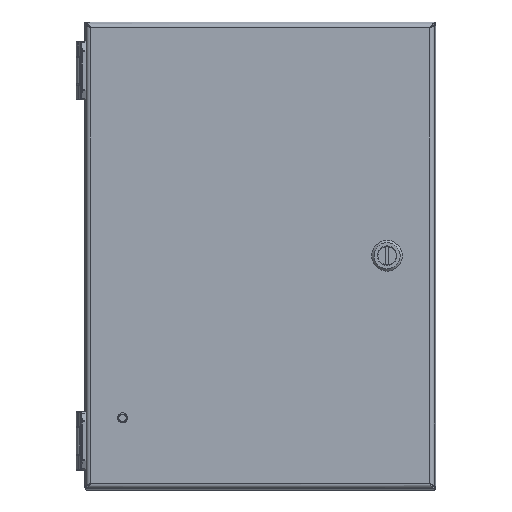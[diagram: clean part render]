
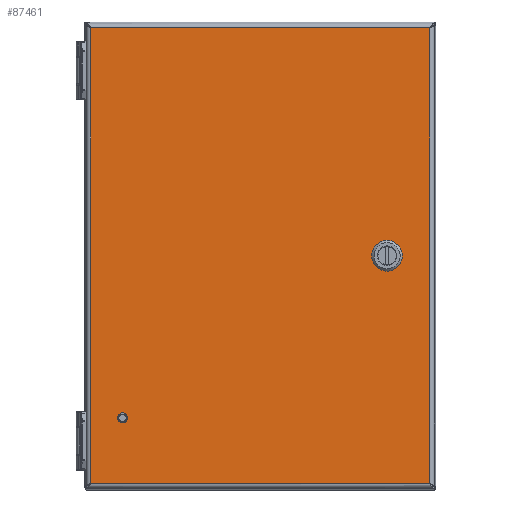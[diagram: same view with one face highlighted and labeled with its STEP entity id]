
A CAD part, top view. The second image highlights one B-rep face of the part: STEP entity #87461.
In plain terms, the highlighted planar face has unit normal (0, 0, 1).
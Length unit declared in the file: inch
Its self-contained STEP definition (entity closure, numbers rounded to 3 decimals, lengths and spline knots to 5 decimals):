
#85568=CARTESIAN_POINT('',(-3.535,-4.16,0.81));
#85569=DIRECTION('',(0.,0.,1.));
#85570=DIRECTION('',(-1.,0.,0.));
#85571=AXIS2_PLACEMENT_3D('',#85568,#85569,#85570);
#85576=CARTESIAN_POINT('',(-3.535,-4.16,0.81));
#85577=DIRECTION('',(0.,0.,1.));
#85578=DIRECTION('',(1.,0.,0.));
#85579=AXIS2_PLACEMENT_3D('',#85576,#85577,#85578);
#85584=DIRECTION('',(0.707,0.707,0.));
#85585=VECTOR('',#85584,0.30984);
#85586=CARTESIAN_POINT('',(2.94447,0.08845,0.81));
#85587=LINE('',#85586,#85585);
#85591=CARTESIAN_POINT('',(3.252,0.,0.81));
#85592=DIRECTION('',(0.,0.,1.));
#85593=DIRECTION('',(-0.961,0.276,0.));
#85594=AXIS2_PLACEMENT_3D('',#85591,#85592,#85593);
#85599=DIRECTION('',(-0.707,0.707,0.));
#85600=VECTOR('',#85599,0.30984);
#85601=CARTESIAN_POINT('',(3.16355,-0.30753,0.81));
#85602=LINE('',#85601,#85600);
#85606=CARTESIAN_POINT('',(3.252,0.,0.81));
#85607=DIRECTION('',(0.,0.,1.));
#85608=DIRECTION('',(-0.276,-0.961,0.));
#85609=AXIS2_PLACEMENT_3D('',#85606,#85607,#85608);
#85614=DIRECTION('',(-0.707,-0.707,0.));
#85615=VECTOR('',#85614,0.30984);
#85616=CARTESIAN_POINT('',(3.55953,-0.08845,0.81));
#85617=LINE('',#85616,#85615);
#85621=CARTESIAN_POINT('',(3.252,0.,0.81));
#85622=DIRECTION('',(0.,0.,1.));
#85623=DIRECTION('',(0.961,-0.276,0.));
#85624=AXIS2_PLACEMENT_3D('',#85621,#85622,#85623);
#85629=DIRECTION('',(0.707,-0.707,0.));
#85630=VECTOR('',#85629,0.30984);
#85631=CARTESIAN_POINT('',(3.34045,0.30753,0.81));
#85632=LINE('',#85631,#85630);
#85636=CARTESIAN_POINT('',(3.252,0.,0.81));
#85637=DIRECTION('',(0.,0.,1.));
#85638=DIRECTION('',(0.276,0.961,0.));
#85639=AXIS2_PLACEMENT_3D('',#85636,#85637,#85638);
#85644=DIRECTION('',(1.,0.,0.));
#85645=VECTOR('',#85644,8.7);
#85646=CARTESIAN_POINT('',(-4.35,-5.85,0.81));
#85647=LINE('',#85646,#85645);
#85738=DIRECTION('',(0.,1.,0.));
#85739=VECTOR('',#85738,11.7);
#85740=CARTESIAN_POINT('',(4.35,-5.85,0.81));
#85741=LINE('',#85740,#85739);
#85788=DIRECTION('',(-1.,0.,0.));
#85789=VECTOR('',#85788,8.7);
#85790=CARTESIAN_POINT('',(4.35,5.85,0.81));
#85791=LINE('',#85790,#85789);
#85889=DIRECTION('',(0.,-1.,0.));
#85890=VECTOR('',#85889,11.7);
#85891=CARTESIAN_POINT('',(-4.35,5.85,0.81));
#85892=LINE('',#85891,#85890);
#87190=CARTESIAN_POINT('',(-4.35,5.85,0.81));
#87191=CARTESIAN_POINT('',(-4.35,-5.85,0.81));
#87192=VERTEX_POINT('',#87190);
#87193=VERTEX_POINT('',#87191);
#87194=CARTESIAN_POINT('',(4.35,-5.85,0.81));
#87195=CARTESIAN_POINT('',(4.35,5.85,0.81));
#87196=VERTEX_POINT('',#87194);
#87197=VERTEX_POINT('',#87195);
#87280=CARTESIAN_POINT('',(-3.63305,-4.16,0.81));
#87281=CARTESIAN_POINT('',(-3.43695,-4.16,0.81));
#87282=VERTEX_POINT('',#87280);
#87283=VERTEX_POINT('',#87281);
#87288=CARTESIAN_POINT('',(2.94447,0.08845,0.81));
#87289=CARTESIAN_POINT('',(3.16355,0.30753,0.81));
#87290=VERTEX_POINT('',#87288);
#87291=VERTEX_POINT('',#87289);
#87292=CARTESIAN_POINT('',(3.34045,0.30753,0.81));
#87293=VERTEX_POINT('',#87292);
#87294=CARTESIAN_POINT('',(3.55953,0.08845,0.81));
#87295=VERTEX_POINT('',#87294);
#87296=CARTESIAN_POINT('',(3.55953,-0.08845,0.81));
#87297=VERTEX_POINT('',#87296);
#87298=CARTESIAN_POINT('',(3.34045,-0.30753,0.81));
#87299=VERTEX_POINT('',#87298);
#87300=CARTESIAN_POINT('',(3.16355,-0.30753,0.81));
#87301=VERTEX_POINT('',#87300);
#87302=CARTESIAN_POINT('',(2.94447,-0.08845,0.81));
#87303=VERTEX_POINT('',#87302);
#87422=CARTESIAN_POINT('',(0.,0.,0.81));
#87423=DIRECTION('',(0.,0.,1.));
#87424=DIRECTION('',(1.,0.,0.));
#87425=AXIS2_PLACEMENT_3D('',#87422,#87423,#87424);
#87426=PLANE('',#87425);
#87428=ORIENTED_EDGE('',*,*,#87427,.F.);
#87430=ORIENTED_EDGE('',*,*,#87429,.F.);
#87432=ORIENTED_EDGE('',*,*,#87431,.F.);
#87434=ORIENTED_EDGE('',*,*,#87433,.F.);
#87435=EDGE_LOOP('',(#87428,#87430,#87432,#87434));
#87436=FACE_OUTER_BOUND('',#87435,.F.);
#87438=ORIENTED_EDGE('',*,*,#87437,.T.);
#87440=ORIENTED_EDGE('',*,*,#87439,.T.);
#87441=EDGE_LOOP('',(#87438,#87440));
#87442=FACE_BOUND('',#87441,.F.);
#87444=ORIENTED_EDGE('',*,*,#87443,.F.);
#87446=ORIENTED_EDGE('',*,*,#87445,.T.);
#87448=ORIENTED_EDGE('',*,*,#87447,.F.);
#87450=ORIENTED_EDGE('',*,*,#87449,.T.);
#87452=ORIENTED_EDGE('',*,*,#87451,.F.);
#87454=ORIENTED_EDGE('',*,*,#87453,.T.);
#87456=ORIENTED_EDGE('',*,*,#87455,.F.);
#87458=ORIENTED_EDGE('',*,*,#87457,.T.);
#87459=EDGE_LOOP('',(#87444,#87446,#87448,#87450,#87452,#87454,#87456,#87458));
#87460=FACE_BOUND('',#87459,.F.);
#85572=CIRCLE('',#85571,0.09805);
#85580=CIRCLE('',#85579,0.09805);
#85595=CIRCLE('',#85594,0.32);
#85610=CIRCLE('',#85609,0.32);
#85625=CIRCLE('',#85624,0.32);
#85640=CIRCLE('',#85639,0.32);
#87427=EDGE_CURVE('',#87193,#87196,#85647,.T.);
#87429=EDGE_CURVE('',#87192,#87193,#85892,.T.);
#87431=EDGE_CURVE('',#87197,#87192,#85791,.T.);
#87433=EDGE_CURVE('',#87196,#87197,#85741,.T.);
#87437=EDGE_CURVE('',#87282,#87283,#85572,.T.);
#87439=EDGE_CURVE('',#87283,#87282,#85580,.T.);
#87443=EDGE_CURVE('',#87290,#87291,#85587,.T.);
#87445=EDGE_CURVE('',#87290,#87303,#85595,.T.);
#87447=EDGE_CURVE('',#87301,#87303,#85602,.T.);
#87449=EDGE_CURVE('',#87301,#87299,#85610,.T.);
#87451=EDGE_CURVE('',#87297,#87299,#85617,.T.);
#87453=EDGE_CURVE('',#87297,#87295,#85625,.T.);
#87455=EDGE_CURVE('',#87293,#87295,#85632,.T.);
#87457=EDGE_CURVE('',#87293,#87291,#85640,.T.);
#87461=ADVANCED_FACE('',(#87436,#87442,#87460),#87426,.T.);
